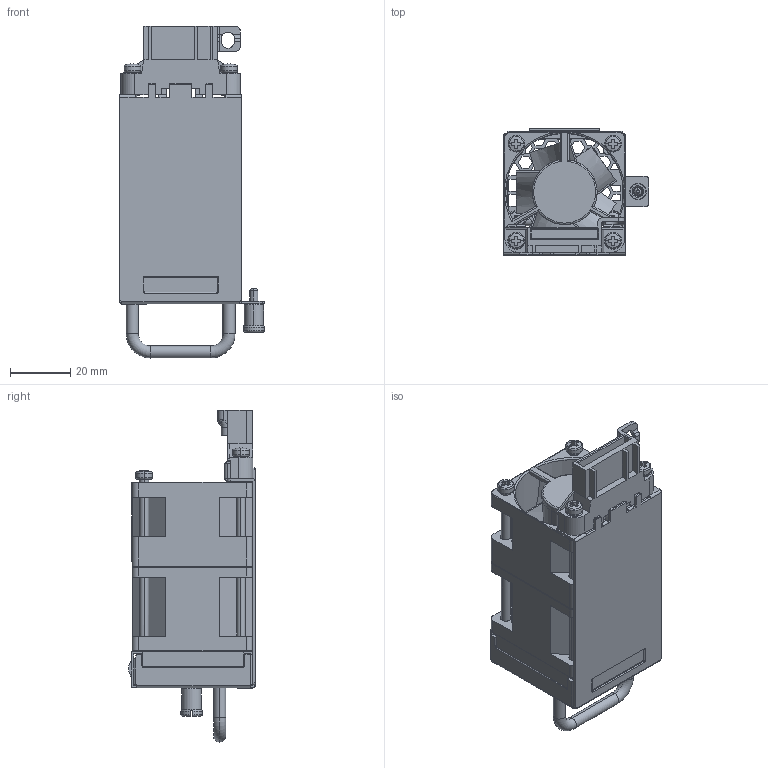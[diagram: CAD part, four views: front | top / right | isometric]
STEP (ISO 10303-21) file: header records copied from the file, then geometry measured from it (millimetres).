
FILE_DESCRIPTION(('Creo Elements/Direct Modeling STEP Export'),'2;1');
FILE_NAME('fan-module-20151007(ES7632BT-168ZZ).stp','2015-10-08T10:17:56',(''),(''),'PTC Creo Elements/Direct Modeling STEP processor for AP214 (Solid Model)','PTC Creo Elements/Direct Modeling 19.0A 04-Oct-2014 (C) Parametric Technology GmbH','');
FILE_SCHEMA(('AUTOMOTIVE_DESIGN { 1 0 10303 214 1 1 1 1 }'));
Length unit declared in the file: millimetre
Products named in the file (15): 124100000342A-M3X60.; 124100000341A-M3X68.5; 117000000106A(FAN-NIDEC4056-40X56); CON-SD-46856001-MOLEX.PRT.1; 246500000238A(FTB)fan-label(246500000239A(B2F); EMI_GASKET(23.3x5x1); HANDLE-FAN; fan-tray-brk(40x40x56); captive-screw-m3(05-52-39-51-4); 124025-010-M3X6-2W.1; 123400000841A-FAY-TRAY-BRK-ASSY(40X40X56); 246041-001(acclabel); C0TAO6632000A(BTF)-FAN-TRAY.6; C0TAO6632000A(BTF)-FAN-TRAY
Assembly tree (17 placements, depth 4):
  C0TAO6632000A(BTF)-FAN-TRAY
    C0TAO6632000A(BTF)-FAN-TRAY.6
      246041-001(acclabel)
      123400000841A-FAY-TRAY-BRK-ASSY(40X40X56)
        124025-010-M3X6-2W.1  x2
        captive-screw-m3(05-52-39-51-4)
        fan-tray-brk(40x40x56)
        HANDLE-FAN
        EMI_GASKET(23.3x5x1)
      246500000238A(FTB)fan-label(246500000239A(B2F)
      124100000341A-M3X68.5  x2
      117000000106A(FAN-NIDEC4056-40X56)
        CON-SD-46856001-MOLEX.PRT.1
        117000000106A(FAN-NIDEC4056-40X56)
      124100000342A-M3X60.  x2
Bounding box: 48 x 41.9 x 109.88 mm (x, y, z)
Volume: 44330.6 mm3; surface area: 46569 mm2
Topology: 14 solids, 14 shells, 1497 faces, 4054 edges, 2601 vertices
Faces by surface type: plane 830, cylinder 473, torus 95, bspline 51, extrusion 20, cone 16, sphere 12
Entity records: 47487 total; most frequent: CARTESIAN_POINT 14503, ORIENTED_EDGE 7202, DIRECTION 6225, EDGE_CURVE 3601, VECTOR 2413, LINE 2393, VERTEX_POINT 2313, AXIS2_PLACEMENT_3D 1906
